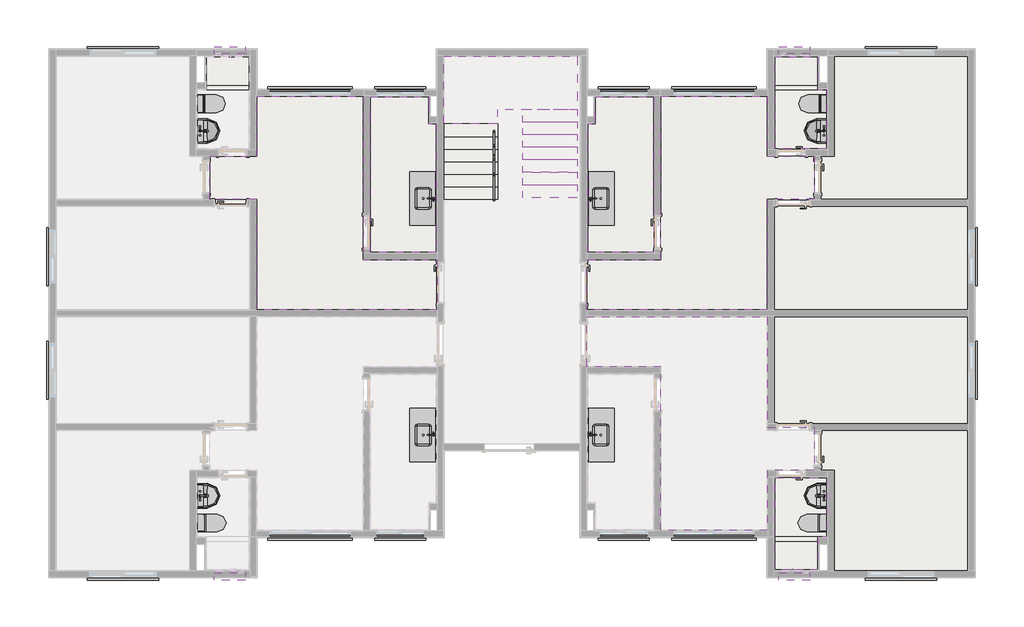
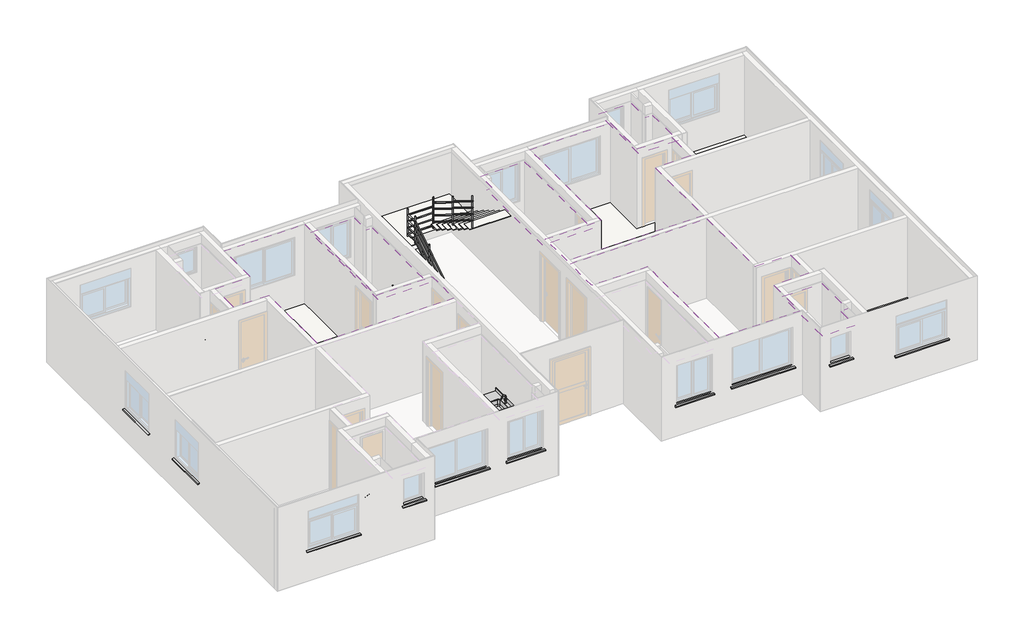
# One storey, part 9 of 9: 31 slabs, 24 flow terminals, 20 proxies, 7 coverings, 4 furniture elements, 1 railing.
"""IFC4 building model written with IfcOpenShell, lengths in millimetres."""

from ifc_helpers import new_model, si_unit, frame, origin, place, context, project, spatial, polyline, outline, extrude, faceted_brep, transform, mapped, element, save
from components import peitoril_peitoril_3_cm_d5d00cd0, peitoril_peitoril_3_cm_9406f1cb, peitoril_peitoril_3_cm_188c827f, peitoril_peitoril_3_cm_88708ed2, peitoril_peitoril_3_cm_319a31b0, peitoril_peitoril_3_cm_ceeb61d0, peitoril_peitoril_3_cm_04364ac9, peitoril_peitoril_3_cm_3798d146, peitoril_peitoril_3_cm_e052e7be, peitoril_peitoril_3_cm_b809ef5a, flow_terminal_fb00f1ee, flow_terminal_a2c34cfb, flow_terminal_2b854958, flow_terminal_a1eea942, flow_terminal_109c0629, flow_terminal_5e795d7a, flow_terminal_b1bb3d39, flow_terminal_9a69dd1e, flow_terminal_59b935d0, flow_terminal_63f1f31f, furniture_4236819a, furniture_3bfc2c75, metalico_900mm_6a006fd6

model = new_model("IFC4")

# Units and contexts
model_context = context("Model", 3, world=origin())
ifc_project = project(units=[si_unit("LENGTHUNIT", "METRE", prefix="MILLI")], contexts=[model_context])

# Site, building, storey
site = spatial("IfcSite", under=ifc_project)
building = spatial("IfcBuilding", under=site)
storey = spatial("IfcBuildingStorey", under=building, Name="2º Pavimento", Elevation=2630.0)

# Proxies
placement = place(None, origin())
peitoril_peitoril_3_cm_shape = peitoril_peitoril_3_cm_d5d00cd0(model_context)
element("IfcBuildingElementProxy", 1, Name="Peitoril : Peitoril 3 cm", ObjectType="Peitoril : Peitoril 3 cm", at=placement, inside=storey, context=model_context, shape_type="MappedRepresentation", body=[
    mapped(peitoril_peitoril_3_cm_shape, transform((1513.1839943, 12261.3233304, 2720.0), x_axis=(1.0, 0.0, 0.0), y_axis=(0.0, 1.0, 0.0), z_axis=(0.0, 0.0, 1.0))),
])
element("IfcBuildingElementProxy", 2, Name="Peitoril : Peitoril 3 cm", ObjectType="Peitoril : Peitoril 3 cm", at=placement, inside=storey, context=model_context, shape_type="MappedRepresentation", body=[
    mapped(peitoril_peitoril_3_cm_shape, transform((19306.810713, 538.6971587, 2720.0), x_axis=(-1.0, 0.0, 0.0), y_axis=(0.0, -1.0, 0.0), z_axis=(0.0, 0.0, 1.0))),
])
peitoril_peitoril_3_cm_2_shape = peitoril_peitoril_3_cm_9406f1cb(model_context)
element("IfcBuildingElementProxy", 3, Name="Peitoril : Peitoril 3 cm", ObjectType="Peitoril : Peitoril 3 cm", at=placement, inside=storey, context=model_context, shape_type="MappedRepresentation", body=[
    mapped(peitoril_peitoril_3_cm_2_shape, transform((88.7010956, 7513.1959901, 2720.0), x_axis=(0.0, 1.0, 0.0), y_axis=(-1.0, 0.0, 0.0), z_axis=(0.0, 0.0, 1.0))),
])
element("IfcBuildingElementProxy", 4, Name="Peitoril : Peitoril 3 cm", ObjectType="Peitoril : Peitoril 3 cm", at=placement, inside=storey, context=model_context, shape_type="MappedRepresentation", body=[
    mapped(peitoril_peitoril_3_cm_2_shape, transform((88.7010956, 4963.1957378, 2720.0), x_axis=(0.0, 1.0, 0.0), y_axis=(-1.0, 0.0, 0.0), z_axis=(0.0, 0.0, 1.0))),
])
peitoril_peitoril_3_cm_3_shape = peitoril_peitoril_3_cm_188c827f(model_context)
element("IfcBuildingElementProxy", 5, Name="Peitoril : Peitoril 3 cm", ObjectType="Peitoril : Peitoril 3 cm", at=placement, inside=storey, context=model_context, shape_type="MappedRepresentation", body=[
    mapped(peitoril_peitoril_3_cm_3_shape, transform((5713.1848, 11361.3203873, 2720.0), x_axis=(1.0, 0.0, 0.0), y_axis=(0.0, 1.0, 0.0), z_axis=(0.0, 0.0, 1.0))),
])
element("IfcBuildingElementProxy", 6, Name="Peitoril : Peitoril 3 cm", ObjectType="Peitoril : Peitoril 3 cm", at=placement, inside=storey, context=model_context, shape_type="MappedRepresentation", body=[
    mapped(peitoril_peitoril_3_cm_3_shape, transform((15106.8099074, 1438.7002405, 2720.0), x_axis=(-1.0, 0.0, 0.0), y_axis=(0.0, -1.0, 0.0), z_axis=(0.0, 0.0, 1.0))),
])
peitoril_peitoril_3_cm_4_shape = peitoril_peitoril_3_cm_88708ed2(model_context)
element("IfcBuildingElementProxy", 7, Name="Peitoril : Peitoril 3 cm", ObjectType="Peitoril : Peitoril 3 cm", at=placement, inside=storey, context=model_context, shape_type="MappedRepresentation", body=[
    mapped(peitoril_peitoril_3_cm_4_shape, transform((3908.1841972, 12261.3236799, 3120.0), x_axis=(1.0, 0.0, 0.0), y_axis=(0.0, 1.0, 0.0), z_axis=(0.0, 0.0, 1.0))),
])
element("IfcBuildingElementProxy", 8, Name="Peitoril : Peitoril 3 cm", ObjectType="Peitoril : Peitoril 3 cm", at=placement, inside=storey, context=model_context, shape_type="MappedRepresentation", body=[
    mapped(peitoril_peitoril_3_cm_4_shape, transform((16911.8105102, 538.6971587, 3120.0), x_axis=(-1.0, 0.0, 0.0), y_axis=(0.0, -1.0, 0.0), z_axis=(0.0, 0.0, 1.0))),
])
peitoril_peitoril_3_cm_5_shape = peitoril_peitoril_3_cm_319a31b0(model_context)
element("IfcBuildingElementProxy", 9, Name="Peitoril : Peitoril 3 cm", ObjectType="Peitoril : Peitoril 3 cm", at=placement, inside=storey, context=model_context, shape_type="MappedRepresentation", body=[
    mapped(peitoril_peitoril_3_cm_5_shape, transform((7738.18476, 11361.3203873, 2720.0), x_axis=(1.0, 0.0, 0.0), y_axis=(0.0, 1.0, 0.0), z_axis=(0.0, 0.0, 1.0))),
])
element("IfcBuildingElementProxy", 10, Name="Peitoril : Peitoril 3 cm", ObjectType="Peitoril : Peitoril 3 cm", at=placement, inside=storey, context=model_context, shape_type="MappedRepresentation", body=[
    mapped(peitoril_peitoril_3_cm_5_shape, transform((8061.8136599, 1438.7002405, 2720.0), x_axis=(-1.0, 0.0, 0.0), y_axis=(0.0, -1.0, 0.0), z_axis=(0.0, 0.0, 1.0))),
])
peitoril_peitoril_3_cm_6_shape = peitoril_peitoril_3_cm_ceeb61d0(model_context)
element("IfcBuildingElementProxy", 11, Name="Peitoril : Peitoril 3 cm", ObjectType="Peitoril : Peitoril 3 cm", at=placement, inside=storey, context=model_context, shape_type="MappedRepresentation", body=[
    mapped(peitoril_peitoril_3_cm_6_shape, transform((5713.1848, 1438.7002405, 2720.0), x_axis=(1.0, 0.0, 0.0), y_axis=(0.0, 1.0, 0.0), z_axis=(0.0, 0.0, 1.0))),
])
element("IfcBuildingElementProxy", 12, Name="Peitoril : Peitoril 3 cm", ObjectType="Peitoril : Peitoril 3 cm", at=placement, inside=storey, context=model_context, shape_type="MappedRepresentation", body=[
    mapped(peitoril_peitoril_3_cm_6_shape, transform((15106.8099074, 11361.3203873, 2720.0), x_axis=(-1.0, 0.0, 0.0), y_axis=(0.0, -1.0, 0.0), z_axis=(0.0, 0.0, 1.0))),
])
peitoril_peitoril_3_cm_7_shape = peitoril_peitoril_3_cm_04364ac9(model_context)
element("IfcBuildingElementProxy", 13, Name="Peitoril : Peitoril 3 cm", ObjectType="Peitoril : Peitoril 3 cm", at=placement, inside=storey, context=model_context, shape_type="MappedRepresentation", body=[
    mapped(peitoril_peitoril_3_cm_7_shape, transform((1513.1839943, 538.6971587, 2720.0), x_axis=(1.0, 0.0, 0.0), y_axis=(0.0, 1.0, 0.0), z_axis=(0.0, 0.0, 1.0))),
])
element("IfcBuildingElementProxy", 14, Name="Peitoril : Peitoril 3 cm", ObjectType="Peitoril : Peitoril 3 cm", at=placement, inside=storey, context=model_context, shape_type="MappedRepresentation", body=[
    mapped(peitoril_peitoril_3_cm_7_shape, transform((19306.810713, 12261.3233304, 2720.0), x_axis=(-1.0, 0.0, 0.0), y_axis=(0.0, -1.0, 0.0), z_axis=(0.0, 0.0, 1.0))),
])
peitoril_peitoril_3_cm_8_shape = peitoril_peitoril_3_cm_3798d146(model_context)
element("IfcBuildingElementProxy", 15, Name="Peitoril : Peitoril 3 cm", ObjectType="Peitoril : Peitoril 3 cm", at=placement, inside=storey, context=model_context, shape_type="MappedRepresentation", body=[
    mapped(peitoril_peitoril_3_cm_8_shape, transform((3908.1841972, 538.6971587, 3120.0), x_axis=(1.0, 0.0, 0.0), y_axis=(0.0, 1.0, 0.0), z_axis=(0.0, 0.0, 1.0))),
])
element("IfcBuildingElementProxy", 16, Name="Peitoril : Peitoril 3 cm", ObjectType="Peitoril : Peitoril 3 cm", at=placement, inside=storey, context=model_context, shape_type="MappedRepresentation", body=[
    mapped(peitoril_peitoril_3_cm_8_shape, transform((16911.8105102, 12261.3236799, 3120.0), x_axis=(-1.0, 0.0, 0.0), y_axis=(0.0, -1.0, 0.0), z_axis=(0.0, 0.0, 1.0))),
])
peitoril_peitoril_3_cm_9_shape = peitoril_peitoril_3_cm_e052e7be(model_context)
element("IfcBuildingElementProxy", 17, Name="Peitoril : Peitoril 3 cm", ObjectType="Peitoril : Peitoril 3 cm", at=placement, inside=storey, context=model_context, shape_type="MappedRepresentation", body=[
    mapped(peitoril_peitoril_3_cm_9_shape, transform((20731.2936118, 7513.1959901, 2720.0), x_axis=(0.0, 1.0, 0.0), y_axis=(-1.0, 0.0, 0.0), z_axis=(0.0, 0.0, 1.0))),
])
element("IfcBuildingElementProxy", 18, Name="Peitoril : Peitoril 3 cm", ObjectType="Peitoril : Peitoril 3 cm", at=placement, inside=storey, context=model_context, shape_type="MappedRepresentation", body=[
    mapped(peitoril_peitoril_3_cm_9_shape, transform((20731.2936118, 4963.1957378, 2720.0), x_axis=(0.0, 1.0, 0.0), y_axis=(-1.0, 0.0, 0.0), z_axis=(0.0, 0.0, 1.0))),
])
peitoril_peitoril_3_cm_10_shape = peitoril_peitoril_3_cm_b809ef5a(model_context)
element("IfcBuildingElementProxy", 19, Name="Peitoril : Peitoril 3 cm", ObjectType="Peitoril : Peitoril 3 cm", at=placement, inside=storey, context=model_context, shape_type="MappedRepresentation", body=[
    mapped(peitoril_peitoril_3_cm_10_shape, transform((13081.8099474, 11361.3203873, 2720.0), x_axis=(-1.0, 0.0, 0.0), y_axis=(0.0, -1.0, 0.0), z_axis=(0.0, 0.0, 1.0))),
])
element("IfcBuildingElementProxy", 20, Name="Peitoril : Peitoril 3 cm", ObjectType="Peitoril : Peitoril 3 cm", at=placement, inside=storey, context=model_context, shape_type="MappedRepresentation", body=[
    mapped(peitoril_peitoril_3_cm_10_shape, transform((12758.1810474, 1438.7002405, 2720.0), x_axis=(1.0, 0.0, 0.0), y_axis=(0.0, 1.0, 0.0), z_axis=(0.0, 0.0, 1.0))),
])

# Coverings
element("IfcCovering", 21, ObjectType="Forro - Gesso acartonado + Pintura", at=placement, inside=storey, context=model_context, shape_type="Brep", body=[
    faceted_brep([(7233.0017324, 11260.0223004, 4831.0), (8536.99631, 11260.0223004, 4831.0), (8536.99631, 10655.0073729, 4831.0), (8709.9963008, 10655.0073729, 4831.0), (8709.9963008, 7766.3603139, 4831.0), (7233.0017324, 7766.3603139, 4831.0), (7233.0017324, 10655.0073729, 4831.0), (7233.0017324, 11260.0223004, 4851.0), (7233.0017324, 10655.0073729, 4851.0), (7233.0017324, 7766.3603139, 4851.0), (8709.9963008, 7766.3603139, 4851.0), (8709.9963008, 10655.0073729, 4851.0), (8536.99631, 10655.0073729, 4851.0), (8536.99631, 11260.0223004, 4851.0)], [[[0, 1, 2, 3, 4, 5, 6]], [[7, 8, 9, 10, 11, 12, 13]], [[7, 13, 1, 0]], [[13, 12, 2, 1]], [[12, 11, 3, 2]], [[11, 10, 4, 3]], [[10, 9, 5, 4]], [[9, 8, 7, 0, 6, 5]]]),
    faceted_brep([(8536.99631, 11260.0223004, 4830.0), (7233.0017324, 11260.0223004, 4830.0), (7233.0017324, 11260.0223004, 4831.0), (8536.99631, 11260.0223004, 4831.0), (8536.99631, 10655.0073729, 4830.0), (8536.99631, 10655.0073729, 4831.0), (8709.9963008, 10655.0073729, 4830.0), (8709.9963008, 10655.0073729, 4831.0), (8709.9963008, 7766.3603139, 4830.0), (8709.9963008, 7766.3603139, 4831.0), (7233.0017324, 7766.3603139, 4830.0), (7233.0017324, 7766.3603139, 4831.0), (7233.0017324, 10655.0073729, 4830.0), (7233.0017324, 10655.0073729, 4831.0)], [[[0, 1, 2, 3]], [[4, 0, 3, 5]], [[6, 4, 5, 7]], [[8, 6, 7, 9]], [[10, 8, 9, 11]], [[12, 10, 11, 13, 2, 1]], [[3, 2, 13, 11, 9, 7, 5]], [[1, 0, 4, 6, 8, 10, 12]]]),
])
element("IfcCovering", 22, ObjectType="Forro - Gesso acartonado + Pintura", at=placement, inside=storey, context=model_context, shape_type="Brep", body=[
    faceted_brep([(12282.9983974, 11260.0223004, 4831.0), (13586.992975, 11260.0223004, 4831.0), (13586.992975, 10655.0073729, 4831.0), (13586.992975, 7766.3603139, 4831.0), (12109.9984066, 7766.3603139, 4831.0), (12109.9984066, 10655.0073729, 4831.0), (12282.9983974, 10655.0073729, 4831.0), (13586.992975, 11260.0223004, 4851.0), (12282.9983974, 11260.0223004, 4851.0), (12282.9983974, 10655.0073729, 4851.0), (12109.9984066, 10655.0073729, 4851.0), (12109.9984066, 7766.3603139, 4851.0), (13586.992975, 7766.3603139, 4851.0), (13586.992975, 10655.0073729, 4851.0)], [[[0, 1, 2, 3, 4, 5, 6]], [[7, 8, 9, 10, 11, 12, 13]], [[8, 7, 1, 0]], [[9, 8, 0, 6]], [[10, 9, 6, 5]], [[11, 10, 5, 4]], [[12, 11, 4, 3]], [[7, 13, 12, 3, 2, 1]]]),
    faceted_brep([(13586.992975, 11260.0223004, 4830.0), (12282.9983974, 11260.0223004, 4830.0), (12282.9983974, 11260.0223004, 4831.0), (13586.992975, 11260.0223004, 4831.0), (12282.9983974, 10655.0073729, 4830.0), (12282.9983974, 10655.0073729, 4831.0), (12109.9984066, 10655.0073729, 4830.0), (12109.9984066, 10655.0073729, 4831.0), (12109.9984066, 7766.3603139, 4830.0), (12109.9984066, 7766.3603139, 4831.0), (13586.992975, 7766.3603139, 4830.0), (13586.992975, 7766.3603139, 4831.0), (13586.992975, 10655.0073729, 4830.0), (13586.992975, 10655.0073729, 4831.0)], [[[0, 1, 2, 3]], [[1, 4, 5, 2]], [[4, 6, 7, 5]], [[6, 8, 9, 7]], [[8, 10, 11, 9]], [[12, 0, 3, 13, 11, 10]], [[3, 2, 5, 7, 9, 11, 13]], [[0, 12, 10, 8, 6, 4, 1]]]),
])
element("IfcCovering", 23, ObjectType="Forro - Gesso acartonado + Pintura", at=placement, inside=storey, context=model_context, shape_type="Brep", body=[
    faceted_brep([(16309.9956991, 2709.9967615, 4831.0), (17479.9970535, 2709.9967615, 4831.0), (17479.9970535, 1379.9983274, 4831.0), (17270.0007274, 1379.9983274, 4831.0), (17270.0007274, 639.9950349, 4831.0), (16309.9956991, 639.9950349, 4831.0), (16309.9956991, 1379.9983274, 4831.0), (16309.9956991, 2709.9967615, 4851.0), (16309.9956991, 1379.9983274, 4851.0), (16309.9956991, 639.9950349, 4851.0), (17270.0007274, 639.9950349, 4851.0), (17270.0007274, 1379.9983274, 4851.0), (17479.9970535, 1379.9983274, 4851.0), (17479.9970535, 2709.9967615, 4851.0)], [[[0, 1, 2, 3, 4, 5, 6]], [[7, 8, 9, 10, 11, 12, 13]], [[7, 13, 1, 0]], [[13, 12, 2, 1]], [[12, 11, 3, 2]], [[11, 10, 4, 3]], [[10, 9, 5, 4]], [[9, 8, 7, 0, 6, 5]]]),
    faceted_brep([(17479.9970535, 2709.9967615, 4830.0), (16309.9956991, 2709.9967615, 4830.0), (16309.9956991, 2709.9967615, 4831.0), (17479.9970535, 2709.9967615, 4831.0), (17479.9970535, 1379.9983274, 4830.0), (17479.9970535, 1379.9983274, 4831.0), (17270.0007274, 1379.9983274, 4830.0), (17270.0007274, 1379.9983274, 4831.0), (17270.0007274, 639.9950349, 4830.0), (17270.0007274, 639.9950349, 4831.0), (16309.9956991, 639.9950349, 4830.0), (16309.9956991, 639.9950349, 4831.0), (16309.9956991, 1379.9983274, 4830.0), (16309.9956991, 1379.9983274, 4831.0)], [[[0, 1, 2, 3]], [[4, 0, 3, 5]], [[6, 4, 5, 7]], [[8, 6, 7, 9]], [[10, 8, 9, 11]], [[12, 10, 11, 13, 2, 1]], [[3, 2, 13, 11, 9, 7, 5]], [[1, 0, 4, 6, 8, 10, 12]]]),
])
element("IfcCovering", 24, ObjectType="Forro - Gesso acartonado + Pintura", at=placement, inside=storey, context=model_context, shape_type="Brep", body=[
    faceted_brep([(17479.9970535, 10090.0238664, 4831.0), (16309.9956991, 10090.0238664, 4831.0), (16309.9956991, 11420.0223004, 4831.0), (16309.9956991, 12160.025593, 4831.0), (17270.0007274, 12160.025593, 4831.0), (17270.0007274, 11420.0223004, 4831.0), (17479.9970535, 11420.0223004, 4831.0), (16309.9956991, 10090.0238664, 4851.0), (17479.9970535, 10090.0238664, 4851.0), (17479.9970535, 11420.0223004, 4851.0), (17270.0007274, 11420.0223004, 4851.0), (17270.0007274, 12160.025593, 4851.0), (16309.9956991, 12160.025593, 4851.0), (16309.9956991, 11420.0223004, 4851.0)], [[[0, 1, 2, 3, 4, 5, 6]], [[7, 8, 9, 10, 11, 12, 13]], [[8, 7, 1, 0]], [[9, 8, 0, 6]], [[10, 9, 6, 5]], [[11, 10, 5, 4]], [[12, 11, 4, 3]], [[7, 13, 12, 3, 2, 1]]]),
    faceted_brep([(16309.9956991, 10090.0238664, 4830.0), (17479.9970535, 10090.0238664, 4830.0), (17479.9970535, 10090.0238664, 4831.0), (16309.9956991, 10090.0238664, 4831.0), (17479.9970535, 11420.0223004, 4830.0), (17479.9970535, 11420.0223004, 4831.0), (17270.0007274, 11420.0223004, 4830.0), (17270.0007274, 11420.0223004, 4831.0), (17270.0007274, 12160.025593, 4830.0), (17270.0007274, 12160.025593, 4831.0), (16309.9956991, 12160.025593, 4830.0), (16309.9956991, 12160.025593, 4831.0), (16309.9956991, 11420.0223004, 4830.0), (16309.9956991, 11420.0223004, 4831.0)], [[[0, 1, 2, 3]], [[1, 4, 5, 2]], [[4, 6, 7, 5]], [[6, 8, 9, 7]], [[8, 10, 11, 9]], [[12, 0, 3, 13, 11, 10]], [[3, 2, 5, 7, 9, 11, 13]], [[0, 12, 10, 8, 6, 4, 1]]]),
])
element("IfcCovering", 25, ObjectType="Textura Laje", at=placement, inside=storey, context=model_context, shape_type="SweptSolid", body=[
    extrude(outline(polyline([(174.9991825, 12175.0252435), (3174.9977061, 12175.0252435), (3174.9977061, 9925.0238664), (3474.9980641, 9925.0238664), (3474.9980641, 8955.0254246), (174.9991825, 8955.0254246), (174.9991825, 12175.0252435)])), frame((0.0, 0.0, 5138.0), z_axis=(0.0, 0.0, 1.0), x_axis=(1.0, 0.0, 0.0)), (0.0, 0.0, 1.0), 2.0),
    extrude(outline(polyline([(174.9992567, 8805.0103139), (4524.9996867, 8805.0103139), (4524.9996867, 6475.0103139), (174.9992567, 6475.0103139), (174.9992567, 8805.0103139)])), frame((0.0, 0.0, 5138.0), z_axis=(0.0, 0.0, 1.0), x_axis=(1.0, 0.0, 0.0)), (0.0, 0.0, 1.0), 2.0),
    extrude(outline(polyline([(4675.9996867, 8956.0244803), (3625.9980641, 8956.0244803), (3625.9980641, 9924.0238664), (4675.9990083, 9924.0238664), (4675.9990083, 11274.0223004), (7066.9986861, 11274.0223004), (7066.9986861, 7600.3603139), (8709.865378, 7600.3603139), (8729.9963008, 7600.3603139), (8729.9963008, 6476.0103139), (4675.9996867, 6476.0103139), (4675.9996867, 8956.0244803)])), frame((0.0, 0.0, 5138.0), z_axis=(0.0, 0.0, 1.0), x_axis=(1.0, 0.0, 0.0)), (0.0, 0.0, 1.0), 2.0),
])
element("IfcCovering", 26, ObjectType="Textura Laje", at=placement, inside=storey, context=model_context, shape_type="SweptSolid", body=[
    extrude(outline(polyline([(20644.9955249, 12175.0252435), (20644.9955249, 8955.0254246), (17344.9966432, 8955.0254246), (17344.9966432, 9925.0238664), (17644.9970013, 9925.0238664), (17644.9970013, 12175.0252435), (20644.9955249, 12175.0252435)])), frame((0.0, 0.0, 5138.0), z_axis=(0.0, 0.0, 1.0), x_axis=(1.0, 0.0, 0.0)), (0.0, 0.0, 1.0), 2.0),
    extrude(outline(polyline([(20644.9954507, 8805.0103139), (20644.9954507, 6475.0103139), (16294.9950207, 6475.0103139), (16294.9950207, 8805.0103139), (20644.9954507, 8805.0103139)])), frame((0.0, 0.0, 5138.0), z_axis=(0.0, 0.0, 1.0), x_axis=(1.0, 0.0, 0.0)), (0.0, 0.0, 1.0), 2.0),
    extrude(outline(polyline([(16143.9950207, 8956.0244803), (16143.9950207, 6476.0103139), (12089.9984066, 6476.0103139), (12089.9984066, 7600.3603139), (12110.1293293, 7600.3603139), (13752.9960213, 7600.3603139), (13752.9960213, 11274.0223004), (16143.9956991, 11274.0223004), (16143.9956991, 9924.0238664), (17193.9966432, 9924.0238664), (17193.9966432, 8956.0244803), (16143.9950207, 8956.0244803)])), frame((0.0, 0.0, 5138.0), z_axis=(0.0, 0.0, 1.0), x_axis=(1.0, 0.0, 0.0)), (0.0, 0.0, 1.0), 2.0),
])
element("IfcCovering", 27, ObjectType="Textura Laje", at=placement, inside=storey, context=model_context, shape_type="SweptSolid", body=[
    extrude(outline(polyline([(20644.9955249, 624.9953844), (17644.9970013, 624.9953844), (17644.9970013, 2874.9967615), (17344.9966432, 2874.9967615), (17344.9966432, 3844.9952033), (20644.9955249, 3844.9952033), (20644.9955249, 624.9953844)])), frame((0.0, 0.0, 5138.0), z_axis=(0.0, 0.0, 1.0), x_axis=(1.0, 0.0, 0.0)), (0.0, 0.0, 1.0), 2.0),
    extrude(outline(polyline([(20644.9954507, 3995.0103139), (16294.9950207, 3995.0103139), (16294.9950207, 6325.0103139), (20644.9954507, 6325.0103139), (20644.9954507, 3995.0103139)])), frame((0.0, 0.0, 5138.0), z_axis=(0.0, 0.0, 1.0), x_axis=(1.0, 0.0, 0.0)), (0.0, 0.0, 1.0), 2.0),
    extrude(outline(polyline([(16143.9950207, 3843.9961476), (17193.9966432, 3843.9961476), (17193.9966432, 2875.9967615), (16143.9956991, 2875.9967615), (16143.9956991, 1525.9983274), (13752.9960213, 1525.9983274), (13752.9960213, 5199.6603139), (12110.1293293, 5199.6603139), (12089.9984066, 5199.6603139), (12089.9984066, 6324.0103139), (16143.9950207, 6324.0103139), (16143.9950207, 3843.9961476)])), frame((0.0, 0.0, 5138.0), z_axis=(0.0, 0.0, 1.0), x_axis=(1.0, 0.0, 0.0)), (0.0, 0.0, 1.0), 2.0),
])

# Flow terminals
flow_terminal_shape = flow_terminal_fb00f1ee(model_context)
element("IfcFlowTerminal", 28, ObjectType="Deca_Shared_Assento_P.280 : Bacia Sanitária - Assento", at=placement, inside=storey, context=model_context, shape_type="MappedRepresentation", body=[
    mapped(flow_terminal_shape, transform((3526.0519567, 11100.2075997, 3040.0300928), x_axis=(0.0, 1.0, 0.0), y_axis=(0.0, 0.0, 1.0), z_axis=(1.0, 0.0, 0.0))),
])
element("IfcFlowTerminal", 29, ObjectType="Deca_Shared_Assento_P.280 : Bacia Sanitária - Assento", at=placement, inside=storey, context=model_context, shape_type="MappedRepresentation", body=[
    mapped(flow_terminal_shape, transform((17278.9427506, 1699.8130281, 3040.0300928), x_axis=(0.0, -1.0, 0.0), y_axis=(0.0, 0.0, 1.0), z_axis=(-1.0, 0.0, 0.0))),
])
flow_terminal_2_shape = flow_terminal_a2c34cfb(model_context)
element("IfcFlowTerminal", 30, ObjectType="DECA_BACIA SANITARIA WISH_P.280_CAIXA ACOPLADA : Bacia Sanitária - Caixa Acoplada Inferior", at=placement, inside=storey, context=model_context, shape_type="MappedRepresentation", body=[
    mapped(flow_terminal_2_shape, transform((3319.9976538, 11105.9659033, 2640.0), x_axis=(0.0, 1.0, 0.0), y_axis=(0.0, 0.0, 1.0), z_axis=(1.0, 0.0, 0.0))),
])
element("IfcFlowTerminal", 31, ObjectType="DECA_BACIA SANITARIA WISH_P.280_CAIXA ACOPLADA : Bacia Sanitária - Caixa Acoplada Inferior", at=placement, inside=storey, context=model_context, shape_type="MappedRepresentation", body=[
    mapped(flow_terminal_2_shape, transform((17484.9970535, 1694.0547246, 2640.0), x_axis=(0.0, -1.0, 0.0), y_axis=(0.0, 0.0, 1.0), z_axis=(-1.0, 0.0, 0.0))),
])
flow_terminal_3_shape = flow_terminal_2b854958(model_context)
element("IfcFlowTerminal", 32, ObjectType="Deca_Shared_Caixa Acoplada para Bacia_P.280 : Bacia Sanitária - Caixa Acoplada", at=placement, inside=storey, context=model_context, shape_type="MappedRepresentation", body=[
    mapped(flow_terminal_3_shape, transform((3329.9976538, 11105.9657159, 3040.0300928), x_axis=(0.0, 1.0, 0.0), y_axis=(0.0, 0.0, 1.0), z_axis=(1.0, 0.0, 0.0))),
])
element("IfcFlowTerminal", 33, ObjectType="Deca_Shared_Caixa Acoplada para Bacia_P.280 : Bacia Sanitária - Caixa Acoplada", at=placement, inside=storey, context=model_context, shape_type="MappedRepresentation", body=[
    mapped(flow_terminal_3_shape, transform((17474.9970535, 1694.0549119, 3040.0300928), x_axis=(0.0, -1.0, 0.0), y_axis=(0.0, 0.0, 1.0), z_axis=(-1.0, 0.0, 0.0))),
])
flow_terminal_4_shape = flow_terminal_a1eea942(model_context)
element("IfcFlowTerminal", 34, ObjectType="DECA_BACIA SANITARIA WISH_P.280_CAIXA ACOPLADA : Bacia Sanitária - Caixa Acoplada Inferior", at=placement, inside=storey, context=model_context, shape_type="MappedRepresentation", body=[
    mapped(flow_terminal_4_shape, transform((3334.9976538, 1694.0547246, 2640.0), x_axis=(0.0, -1.0, 0.0), y_axis=(0.0, 0.0, -1.0), z_axis=(1.0, 0.0, 0.0))),
])
element("IfcFlowTerminal", 35, ObjectType="DECA_BACIA SANITARIA WISH_P.280_CAIXA ACOPLADA : Bacia Sanitária - Caixa Acoplada Inferior", at=placement, inside=storey, context=model_context, shape_type="MappedRepresentation", body=[
    mapped(flow_terminal_4_shape, transform((17499.9970535, 11105.9659033, 2640.0), x_axis=(0.0, 1.0, 0.0), y_axis=(0.0, 0.0, -1.0), z_axis=(-1.0, 0.0, 0.0))),
])
flow_terminal_5_shape = flow_terminal_109c0629(model_context)
element("IfcFlowTerminal", 36, ObjectType="Deca_Shared_Caixa Acoplada para Bacia_P.280 : Bacia Sanitária - Caixa Acoplada", at=placement, inside=storey, context=model_context, shape_type="MappedRepresentation", body=[
    mapped(flow_terminal_5_shape, transform((3344.9976538, 1694.0549119, 3040.0300928), x_axis=(0.0, -1.0, 0.0), y_axis=(0.0, 0.0, -1.0), z_axis=(1.0, 0.0, 0.0))),
])
element("IfcFlowTerminal", 37, ObjectType="Deca_Shared_Caixa Acoplada para Bacia_P.280 : Bacia Sanitária - Caixa Acoplada", at=placement, inside=storey, context=model_context, shape_type="MappedRepresentation", body=[
    mapped(flow_terminal_5_shape, transform((17489.9970535, 11105.9657159, 3040.0300928), x_axis=(0.0, 1.0, 0.0), y_axis=(0.0, 0.0, -1.0), z_axis=(-1.0, 0.0, 0.0))),
])
flow_terminal_6_shape = flow_terminal_5e795d7a(model_context)
element("IfcFlowTerminal", 38, ObjectType="Deca_Shared_Assento_P.280 : Bacia Sanitária - Assento", at=placement, inside=storey, context=model_context, shape_type="MappedRepresentation", body=[
    mapped(flow_terminal_6_shape, transform((3541.0519567, 1699.8130281, 3040.0300928), x_axis=(0.0, -1.0, 0.0), y_axis=(0.0, 0.0, -1.0), z_axis=(1.0, 0.0, 0.0))),
])
element("IfcFlowTerminal", 39, ObjectType="Deca_Shared_Assento_P.280 : Bacia Sanitária - Assento", at=placement, inside=storey, context=model_context, shape_type="MappedRepresentation", body=[
    mapped(flow_terminal_6_shape, transform((17293.9427506, 11100.2075997, 3040.0300928), x_axis=(0.0, 1.0, 0.0), y_axis=(0.0, 0.0, -1.0), z_axis=(-1.0, 0.0, 0.0))),
])
flow_terminal_7_shape = flow_terminal_b1bb3d39(model_context)
element("IfcFlowTerminal", 40, ObjectType="Deca_Lavatorio Belle Epoque_L.2_Coluna : Pia Banho", at=placement, inside=storey, context=model_context, shape_type="MappedRepresentation", body=[
    mapped(flow_terminal_7_shape, transform((3334.9976538, 2304.9967615, 3423.6791778), x_axis=(0.0, 1.0, 0.0), y_axis=(0.0, 0.0, 1.0), z_axis=(1.0, 0.0, 0.0))),
])
element("IfcFlowTerminal", 41, ObjectType="Deca_Lavatorio Belle Epoque_L.2_Coluna : Pia Banho", at=placement, inside=storey, context=model_context, shape_type="MappedRepresentation", body=[
    mapped(flow_terminal_7_shape, transform((17484.9970535, 10495.0238664, 3423.6791778), x_axis=(0.0, -1.0, 0.0), y_axis=(0.0, 0.0, 1.0), z_axis=(-1.0, 0.0, 0.0))),
])
flow_terminal_8_shape = flow_terminal_9a69dd1e(model_context)
element("IfcFlowTerminal", 42, ObjectType="Deca_Lavatorio Belle Epoque_L.2_Coluna : Pia Banho", at=placement, inside=storey, context=model_context, shape_type="MappedRepresentation", body=[
    mapped(flow_terminal_8_shape, transform((3334.9976538, 10495.0238664, 3423.6791778), x_axis=(0.0, -1.0, 0.0), y_axis=(0.0, 0.0, -1.0), z_axis=(1.0, 0.0, 0.0))),
])
element("IfcFlowTerminal", 43, ObjectType="Deca_Lavatorio Belle Epoque_L.2_Coluna : Pia Banho", at=placement, inside=storey, context=model_context, shape_type="MappedRepresentation", body=[
    mapped(flow_terminal_8_shape, transform((17484.9970535, 2304.9967615, 3423.6791778), x_axis=(0.0, 1.0, 0.0), y_axis=(0.0, 0.0, -1.0), z_axis=(-1.0, 0.0, 0.0))),
])
flow_terminal_9_shape = flow_terminal_59b935d0(model_context)
element("IfcFlowTerminal", 44, ObjectType="Deca_Torneira Lavatorio Izy Plus_1198.C24_Mesa Bica Alta : Torneira Cozinha", at=placement, inside=storey, context=model_context, shape_type="MappedRepresentation", body=[
    mapped(flow_terminal_9_shape, transform((8646.99867, 8980.0223004, 3580.0), x_axis=(0.0, -1.0, 0.0), y_axis=(1.0, 0.0, 0.0), z_axis=(0.0, 0.0, 1.0))),
])
element("IfcFlowTerminal", 45, ObjectType="Deca_Torneira Lavatorio Izy Plus_1198.C24_Mesa Bica Alta : Torneira Cozinha", at=placement, inside=storey, context=model_context, shape_type="MappedRepresentation", body=[
    mapped(flow_terminal_9_shape, transform((3406.8910521, 10494.3801324, 3441.5038992), x_axis=(0.0, 1.0, 0.0), y_axis=(-1.0, 0.0, 0.0), z_axis=(0.0, 0.0, 1.0))),
])
element("IfcFlowTerminal", 46, ObjectType="Deca_Torneira Lavatorio Izy Plus_1198.C24_Mesa Bica Alta : Torneira Cozinha", at=placement, inside=storey, context=model_context, shape_type="MappedRepresentation", body=[
    mapped(flow_terminal_9_shape, transform((12172.9960374, 3669.9874185, 3580.0), x_axis=(0.0, 1.0, 0.0), y_axis=(-1.0, 0.0, 0.0), z_axis=(0.0, 0.0, 1.0))),
])
element("IfcFlowTerminal", 47, ObjectType="Deca_Torneira Lavatorio Izy Plus_1198.C24_Mesa Bica Alta : Torneira Cozinha", at=placement, inside=storey, context=model_context, shape_type="MappedRepresentation", body=[
    mapped(flow_terminal_9_shape, transform((17413.1036553, 2305.6404955, 3441.5038992), x_axis=(0.0, -1.0, 0.0), y_axis=(1.0, 0.0, 0.0), z_axis=(0.0, 0.0, 1.0))),
])
flow_terminal_10_shape = flow_terminal_63f1f31f(model_context)
element("IfcFlowTerminal", 48, ObjectType="Deca_Torneira Lavatorio Izy Plus_1198.C24_Mesa Bica Alta : Torneira Cozinha", at=placement, inside=storey, context=model_context, shape_type="MappedRepresentation", body=[
    mapped(flow_terminal_10_shape, transform((8646.99867, 3669.9874185, 3580.0), x_axis=(0.0, 1.0, 0.0), y_axis=(-1.0, 0.0, 0.0), z_axis=(0.0, 0.0, 1.0))),
])
element("IfcFlowTerminal", 49, ObjectType="Deca_Torneira Lavatorio Izy Plus_1198.C24_Mesa Bica Alta : Torneira Cozinha", at=placement, inside=storey, context=model_context, shape_type="MappedRepresentation", body=[
    mapped(flow_terminal_10_shape, transform((3406.8910521, 2305.6404955, 3441.5038992), x_axis=(0.0, -1.0, 0.0), y_axis=(1.0, 0.0, 0.0), z_axis=(0.0, 0.0, 1.0))),
])
element("IfcFlowTerminal", 50, ObjectType="Deca_Torneira Lavatorio Izy Plus_1198.C24_Mesa Bica Alta : Torneira Cozinha", at=placement, inside=storey, context=model_context, shape_type="MappedRepresentation", body=[
    mapped(flow_terminal_10_shape, transform((12172.9960374, 8980.0223004, 3580.0), x_axis=(0.0, -1.0, 0.0), y_axis=(1.0, 0.0, 0.0), z_axis=(0.0, 0.0, 1.0))),
])
element("IfcFlowTerminal", 51, ObjectType="Deca_Torneira Lavatorio Izy Plus_1198.C24_Mesa Bica Alta : Torneira Cozinha", at=placement, inside=storey, context=model_context, shape_type="MappedRepresentation", body=[
    mapped(flow_terminal_10_shape, transform((17413.1036553, 10494.3801324, 3441.5038992), x_axis=(0.0, 1.0, 0.0), y_axis=(-1.0, 0.0, 0.0), z_axis=(0.0, 0.0, 1.0))),
])

# Furniture
furniture_shape = furniture_4236819a(model_context)
element("IfcFurniture", 52, ObjectType="Tampo de Bancada com Cuba : Granilite 60cm", at=placement, inside=storey, context=model_context, shape_type="MappedRepresentation", body=[
    mapped(furniture_shape, transform((8714.9986604, 8379.5600053, 2680.0), x_axis=(0.0, -1.0, 0.0), y_axis=(1.0, 0.0, 0.0), z_axis=(0.0, 0.0, 1.0))),
])
element("IfcFurniture", 53, ObjectType="Tampo de Bancada com Cuba : Granilite 60cm", at=placement, inside=storey, context=model_context, shape_type="MappedRepresentation", body=[
    mapped(furniture_shape, transform((12104.996047, 4270.4497136, 2680.0), x_axis=(0.0, 1.0, 0.0), y_axis=(-1.0, 0.0, 0.0), z_axis=(0.0, 0.0, 1.0))),
])
furniture_2_shape = furniture_3bfc2c75(model_context)
element("IfcFurniture", 54, ObjectType="Tampo de Bancada com Cuba : Granilite 60cm", at=placement, inside=storey, context=model_context, shape_type="MappedRepresentation", body=[
    mapped(furniture_2_shape, transform((8714.9986604, 4270.4497136, 2680.0), x_axis=(0.0, 1.0, 0.0), y_axis=(-1.0, 0.0, 0.0), z_axis=(0.0, 0.0, 1.0))),
])
element("IfcFurniture", 55, ObjectType="Tampo de Bancada com Cuba : Granilite 60cm", at=placement, inside=storey, context=model_context, shape_type="MappedRepresentation", body=[
    mapped(furniture_2_shape, transform((12104.996047, 8379.5600053, 2680.0), x_axis=(0.0, -1.0, 0.0), y_axis=(1.0, 0.0, 0.0), z_axis=(0.0, 0.0, 1.0))),
])

# Railing
metalico_900mm_shape = metalico_900mm_6a006fd6(model_context)
element("IfcRailing", 56, ObjectType="Metalico 900mm", at=placement, inside=storey, context=model_context, shape_type="MappedRepresentation", body=[
    mapped(metalico_900mm_shape, transform((0.0, 0.0, 0.0), x_axis=(1.0, 0.0, 0.0), y_axis=(0.0, 1.0, 0.0), z_axis=(0.0, 0.0, 1.0))),
])

# Slabs
element("IfcSlab", 57, ObjectType="Pedra Basalto", at=placement, inside=storey, context=model_context, shape_type="SweptSolid", body=[
    extrude(outline(polyline([(4509.99398, 11515.0235306), (4509.99398, 11415.0235306), (3529.99398, 11415.0235306), (3529.99398, 11515.0235306), (4509.99398, 11515.0235306)])), frame((0.0, 0.0, 2720.0), z_axis=(0.0, 0.0, 1.0), x_axis=(1.0, 0.0, 0.0)), (0.0, 0.0, 1.0), 20.0),
])
element("IfcSlab", 58, ObjectType="Cerâmica piso + Impermeabilização", at=placement, inside=storey, context=model_context, shape_type="SweptSolid", body=[
    extrude(outline(polyline([(4509.99398, 11505.0235306), (3549.99398, 11505.0235306), (3549.99398, 12160.025593), (4509.99398, 12160.025593), (4509.99398, 11505.0235306)])), frame((0.0, 0.0, 2629.0), z_axis=(0.0, 0.0, 1.0), x_axis=(1.0, 0.0, 0.0)), (0.0, 0.0, 1.0), 11.0),
])
element("IfcSlab", 59, ObjectType="Cerâmica", at=placement, inside=storey, context=model_context, shape_type="SweptSolid", body=[
    extrude(outline(polyline([(8709.9963008, 7766.3603139), (7233.0017324, 7766.3603139), (7233.0017324, 10655.0073729), (7233.0017324, 11260.0223004), (8536.99631, 11260.0223004), (8536.99631, 10655.0073729), (8709.9963008, 10655.0073729), (8709.9963008, 7766.3603139)])), frame((0.0, 0.0, 2630.0), z_axis=(0.0, 0.0, 1.0), x_axis=(1.0, 0.0, 0.0)), (0.0, 0.0, 1.0), 10.0),
])
element("IfcSlab", 60, ObjectType="Cerâmica", at=placement, inside=storey, context=model_context, shape_type="SweptSolid", body=[
    extrude(outline(polyline([(8723.9963008, 6476.0103139), (4675.9996867, 6476.0103139), (4675.9996867, 8956.0244803), (3625.9980641, 8956.0244803), (3625.9980641, 9924.0238664), (4675.9990083, 9924.0238664), (4675.9990083, 11280.0223004), (7066.9986861, 11280.0223004), (7066.9986861, 7600.3603139), (8723.9963008, 7600.3603139), (8723.9963008, 6476.0103139)])), frame((0.0, 0.0, 2630.0), z_axis=(0.0, 0.0, 1.0), x_axis=(1.0, 0.0, 0.0)), (0.0, 0.0, 1.0), 10.0),
])
element("IfcSlab", 61, ObjectType="Pedra Basalto", at=placement, inside=storey, context=model_context, shape_type="SweptSolid", body=[
    extrude(outline(polyline([(16310.0007274, 11515.0235306), (17290.0007274, 11515.0235306), (17290.0007274, 11415.0235306), (16310.0007274, 11415.0235306), (16310.0007274, 11515.0235306)])), frame((0.0, 0.0, 2720.0), z_axis=(0.0, 0.0, 1.0), x_axis=(1.0, 0.0, 0.0)), (0.0, 0.0, 1.0), 20.0),
])
element("IfcSlab", 62, ObjectType="Cerâmica piso + Impermeabilização", at=placement, inside=storey, context=model_context, shape_type="SweptSolid", body=[
    extrude(outline(polyline([(16310.0007274, 1294.9970972), (17270.0007274, 1294.9970972), (17270.0007274, 639.9950349), (16310.0007274, 639.9950349), (16310.0007274, 1294.9970972)])), frame((0.0, 0.0, 2629.0), z_axis=(0.0, 0.0, 1.0), x_axis=(1.0, 0.0, 0.0)), (0.0, 0.0, 1.0), 11.0),
])
element("IfcSlab", 63, ObjectType="Pedra Basalto", at=placement, inside=storey, context=model_context, shape_type="SweptSolid", body=[
    extrude(outline(polyline([(16310.0007274, 1284.9970972), (16310.0007274, 1384.9970972), (17290.0007274, 1384.9970972), (17290.0007274, 1284.9970972), (16310.0007274, 1284.9970972)])), frame((0.0, 0.0, 2720.0), z_axis=(0.0, 0.0, 1.0), x_axis=(1.0, 0.0, 0.0)), (0.0, 0.0, 1.0), 20.0),
])
element("IfcSlab", 64, ObjectType="Cerâmica", at=placement, inside=storey, context=model_context, shape_type="SweptSolid", body=[
    extrude(outline(polyline([(16309.9956991, 1379.9970972), (16309.9956991, 2709.9967615), (17479.9970535, 2709.9967615), (17479.9970535, 1379.9970972), (16309.9956991, 1379.9970972)])), frame((0.0, 0.0, 2630.0), z_axis=(0.0, 0.0, 1.0), x_axis=(1.0, 0.0, 0.0)), (0.0, 0.0, 1.0), 10.0),
])
element("IfcSlab", 65, ObjectType="Cerâmica piso + Impermeabilização", at=placement, inside=storey, context=model_context, shape_type="SweptSolid", body=[
    extrude(outline(polyline([(16310.0007274, 11505.0235306), (16310.0007274, 12160.025593), (17270.0007274, 12160.025593), (17270.0007274, 11505.0235306), (16310.0007274, 11505.0235306)])), frame((0.0, 0.0, 2629.0), z_axis=(0.0, 0.0, 1.0), x_axis=(1.0, 0.0, 0.0)), (0.0, 0.0, 1.0), 11.0),
])
element("IfcSlab", 66, ObjectType="Cerâmica", at=placement, inside=storey, context=model_context, shape_type="SweptSolid", body=[
    extrude(outline(polyline([(16309.9956991, 11420.0235306), (17479.9970535, 11420.0235306), (17479.9970535, 10090.0238664), (16309.9956991, 10090.0238664), (16309.9956991, 11420.0235306)])), frame((0.0, 0.0, 2630.0), z_axis=(0.0, 0.0, 1.0), x_axis=(1.0, 0.0, 0.0)), (0.0, 0.0, 1.0), 10.0),
])
element("IfcSlab", 67, ObjectType="Cerâmica", at=placement, inside=storey, context=model_context, shape_type="SweptSolid", body=[
    extrude(outline(polyline([(12109.9984066, 7766.3603139), (12109.9984066, 10655.0073729), (12282.9983974, 10655.0073729), (12282.9983974, 11260.0223004), (13586.992975, 11260.0223004), (13586.992975, 10655.0073729), (13586.992975, 7766.3603139), (12109.9984066, 7766.3603139)])), frame((0.0, 0.0, 2630.0), z_axis=(0.0, 0.0, 1.0), x_axis=(1.0, 0.0, 0.0)), (0.0, 0.0, 1.0), 10.0),
])
element("IfcSlab", 68, ObjectType="Vinilico", at=placement, inside=storey, context=model_context, shape_type="SweptSolid", body=[
    extrude(outline(polyline([(16295.9950207, 6324.0103139), (20643.9955249, 6324.0103139), (20643.9955249, 3925.9951411), (16295.9950207, 3925.9951411), (16295.9950207, 6324.0103139)])), frame((0.0, 0.0, 2630.0), z_axis=(0.0, 0.0, 1.0), x_axis=(1.0, 0.0, 0.0)), (0.0, 0.0, 1.0), 10.0),
])
element("IfcSlab", 69, ObjectType="Vinilico", at=placement, inside=storey, context=model_context, shape_type="SweptSolid", body=[
    extrude(outline(polyline([(16295.9950207, 8804.0244803), (20643.9955249, 8804.0244803), (20643.9955249, 6476.0103139), (16295.9950207, 6476.0103139), (16295.9950207, 8804.0244803)])), frame((0.0, 0.0, 2630.0), z_axis=(0.0, 0.0, 1.0), x_axis=(1.0, 0.0, 0.0)), (0.0, 0.0, 1.0), 10.0),
])
element("IfcSlab", 70, ObjectType="Cerâmica", at=placement, inside=storey, context=model_context, shape_type="SweptSolid", body=[
    extrude(outline(polyline([(12095.9984066, 6476.0103139), (12095.9984066, 7600.3603139), (13752.9960213, 7600.3603139), (13752.9960213, 11280.0223004), (16143.9956991, 11280.0223004), (16143.9956991, 9924.0238664), (17193.9966432, 9924.0238664), (17193.9966432, 8956.0244803), (16143.9950207, 8956.0244803), (16143.9950207, 6476.0103139), (12095.9984066, 6476.0103139)])), frame((0.0, 0.0, 2630.0), z_axis=(0.0, 0.0, 1.0), x_axis=(1.0, 0.0, 0.0)), (0.0, 0.0, 1.0), 10.0),
])
element("IfcSlab", 71, ObjectType="Vinilico", at=placement, inside=storey, context=model_context, shape_type="SweptSolid", body=[
    extrude(outline(polyline([(20643.9955249, 12174.0253822), (20643.9955249, 8954.0253822), (17345.9970535, 8954.0253822), (17345.9970535, 9924.0253822), (17645.9970535, 9924.0253822), (17645.9970535, 12174.0253822), (20643.9955249, 12174.0253822)])), frame((0.0, 0.0, 2630.0), z_axis=(0.0, 0.0, 1.0), x_axis=(1.0, 0.0, 0.0)), (0.0, 0.0, 1.0), 10.0),
])
element("IfcSlab", 72, ObjectType="Vinilico", at=placement, inside=storey, context=model_context, shape_type="SweptSolid", body=[
    extrude(outline(polyline([(20643.9955249, 625.9952456), (17645.9970535, 625.9952456), (17645.9970535, 2875.9952456), (17345.9970535, 2875.9952456), (17345.9970535, 3845.9952456), (20643.9955249, 3845.9952456), (20643.9955249, 625.9952456)])), frame((0.0, 0.0, 2630.0), z_axis=(0.0, 0.0, 1.0), x_axis=(1.0, 0.0, 0.0)), (0.0, 0.0, 1.0), 10.0),
])
element("IfcSlab", 73, ObjectType="Soleira", at=placement, inside=storey, context=model_context, shape_type="SweptSolid", body=[
    extrude(outline(polyline([(4467.999908, 8956.0244803), (4467.999908, 8804.0244803), (3717.999908, 8804.0244803), (3717.999908, 8956.0244803), (4467.999908, 8956.0244803)])), frame((0.0, 0.0, 2630.0), z_axis=(0.0, 0.0, 1.0), x_axis=(1.0, 0.0, 0.0)), (0.0, 0.0, 1.0), 10.0),
])
element("IfcSlab", 74, ObjectType="Degrau escada", at=placement, inside=storey, context=model_context, shape_type="SweptSolid", body=[
    extrude(outline(polyline([(11869.9958537, 10704.9988327), (11869.9958537, 10409.9988127), (10654.9958537, 10409.9988127), (10654.9958537, 10704.9988327), (11869.9958537, 10704.9988327)])), frame((0.0, 0.0, 4207.7), z_axis=(0.0, 0.0, 1.0), x_axis=(1.0, 0.0, 0.0)), (0.0, 0.0, 1.0), 20.0),
])
element("IfcSlab", 75, ObjectType="Degrau escada", at=placement, inside=storey, context=model_context, shape_type="SweptSolid", body=[
    extrude(outline(polyline([(11869.9958537, 10984.9988327), (11869.9958537, 10689.9988127), (10654.9958537, 10689.9988127), (10654.9958537, 10984.9988327), (11869.9958537, 10984.9988327)])), frame((0.0, 0.0, 4032.4), z_axis=(0.0, 0.0, 1.0), x_axis=(1.0, 0.0, 0.0)), (0.0, 0.0, 1.0), 20.0),
])
element("IfcSlab", 76, ObjectType="Degrau escada", at=placement, inside=storey, context=model_context, shape_type="SweptSolid", body=[
    extrude(outline(polyline([(10094.9954646, 9535.5366253), (10094.9954646, 9240.5366053), (8879.9954646, 9240.5366053), (8879.9954646, 9535.5366253), (10094.9954646, 9535.5366253)])), frame((0.0, 0.0, 2980.6), z_axis=(0.0, 0.0, 1.0), x_axis=(1.0, 0.0, 0.0)), (0.0, 0.0, 1.0), 20.0),
])
element("IfcSlab", 77, ObjectType="Degrau escada", at=placement, inside=storey, context=model_context, shape_type="SweptSolid", body=[
    extrude(outline(polyline([(10094.9954646, 9815.5366253), (10094.9954646, 9520.5366053), (8879.9954646, 9520.5366053), (8879.9954646, 9815.5366253), (10094.9954646, 9815.5366253)])), frame((0.0, 0.0, 3155.9), z_axis=(0.0, 0.0, 1.0), x_axis=(1.0, 0.0, 0.0)), (0.0, 0.0, 1.0), 20.0),
])
element("IfcSlab", 78, ObjectType="Degrau escada", at=placement, inside=storey, context=model_context, shape_type="SweptSolid", body=[
    extrude(outline(polyline([(10094.9954646, 10095.5366253), (10094.9954646, 9800.5366053), (8879.9954646, 9800.5366053), (8879.9954646, 10095.5366253), (10094.9954646, 10095.5366253)])), frame((0.0, 0.0, 3331.2), z_axis=(0.0, 0.0, 1.0), x_axis=(1.0, 0.0, 0.0)), (0.0, 0.0, 1.0), 20.0),
])
element("IfcSlab", 79, ObjectType="Degrau escada", at=placement, inside=storey, context=model_context, shape_type="SweptSolid", body=[
    extrude(outline(polyline([(10094.9954646, 10375.5366253), (10094.9954646, 10080.5366053), (8879.9954646, 10080.5366053), (8879.9954646, 10375.5366253), (10094.9954646, 10375.5366253)])), frame((0.0, 0.0, 3506.5), z_axis=(0.0, 0.0, 1.0), x_axis=(1.0, 0.0, 0.0)), (0.0, 0.0, 1.0), 20.0),
])
element("IfcSlab", 80, ObjectType="Degrau escada", at=placement, inside=storey, context=model_context, shape_type="SweptSolid", body=[
    extrude(outline(polyline([(10094.9954646, 10655.5366253), (10094.9954646, 10360.5366053), (8879.9954646, 10360.5366053), (8879.9954646, 10655.5366253), (10094.9954646, 10655.5366253)])), frame((0.0, 0.0, 3681.8), z_axis=(0.0, 0.0, 1.0), x_axis=(1.0, 0.0, 0.0)), (0.0, 0.0, 1.0), 20.0),
])
element("IfcSlab", 81, ObjectType="Degrau escada", at=placement, inside=storey, context=model_context, shape_type="SweptSolid", body=[
    extrude(outline(polyline([(10094.9954646, 9255.5366253), (10094.9954646, 8960.5366053), (8879.9954646, 8960.5366053), (8879.9954646, 9255.5366253), (10094.9954646, 9255.5366253)])), frame((0.0, 0.0, 2805.3), z_axis=(0.0, 0.0, 1.0), x_axis=(1.0, 0.0, 0.0)), (0.0, 0.0, 1.0), 20.0),
])
element("IfcSlab", 82, ObjectType="Degrau escada", at=placement, inside=storey, context=model_context, shape_type="SweptSolid", body=[
    extrude(outline(polyline([(11869.9958537, 10419.9988327), (11869.9958537, 10124.9988127), (10654.9958537, 10124.9988127), (10654.9958537, 10419.9988327), (11869.9958537, 10419.9988327)])), frame((0.0, 0.0, 4383.0), z_axis=(0.0, 0.0, 1.0), x_axis=(1.0, 0.0, 0.0)), (0.0, 0.0, 1.0), 20.0),
])
element("IfcSlab", 83, ObjectType="Degrau escada", at=placement, inside=storey, context=model_context, shape_type="SweptSolid", body=[
    extrude(outline(polyline([(11869.9958537, 10139.9988327), (11869.9958537, 9844.9988127), (10654.9958537, 9844.9988127), (10654.9958537, 10139.9988327), (11869.9958537, 10139.9988327)])), frame((0.0, 0.0, 4558.3), z_axis=(0.0, 0.0, 1.0), x_axis=(1.0, 0.0, 0.0)), (0.0, 0.0, 1.0), 20.0),
])
element("IfcSlab", 84, ObjectType="Degrau escada", at=placement, inside=storey, context=model_context, shape_type="SweptSolid", body=[
    extrude(outline(polyline([(11869.9958537, 9854.9988327), (11869.9958537, 9559.9988127), (10654.9958537, 9559.9988127), (10654.9958537, 9854.9988327), (11869.9958537, 9854.9988327)])), frame((0.0, 0.0, 4733.6), z_axis=(0.0, 0.0, 1.0), x_axis=(1.0, 0.0, 0.0)), (0.0, 0.0, 1.0), 20.0),
])
element("IfcSlab", 85, ObjectType="Degrau escada", at=placement, inside=storey, context=model_context, shape_type="SweptSolid", body=[
    extrude(outline(polyline([(11869.9958537, 9574.9988327), (11869.9958537, 9279.9988127), (10654.9958537, 9279.9988127), (10654.9958537, 9574.9988327), (11869.9958537, 9574.9988327)])), frame((0.0, 0.0, 4908.9), z_axis=(0.0, 0.0, 1.0), x_axis=(1.0, 0.0, 0.0)), (0.0, 0.0, 1.0), 20.0),
])
element("IfcSlab", 86, ObjectType="Degrau escada", at=placement, inside=storey, context=model_context, shape_type="SweptSolid", body=[
    extrude(outline(polyline([(11869.9958537, 9289.9988327), (11869.9958537, 8994.9988127), (10654.9958537, 8994.9988127), (10654.9958537, 9289.9988327), (11869.9958537, 9289.9988327)])), frame((0.0, 0.0, 5084.2), z_axis=(0.0, 0.0, 1.0), x_axis=(1.0, 0.0, 0.0)), (0.0, 0.0, 1.0), 20.0),
])
element("IfcSlab", 87, ObjectType="Porcelanato", at=placement, inside=storey, context=model_context, shape_type="SweptSolid", body=[
    extrude(outline(polyline([(11874.9973788, 12174.9995833), (11874.9973788, 10969.9988127), (10079.9973788, 10969.9988127), (10079.9973788, 10654.9988127), (8874.9973537, 10654.9988127), (8874.9973537, 12174.9995833), (11874.9973788, 12174.9995833)])), frame((0.0, 0.0, 3850.0), z_axis=(0.0, 0.0, 1.0), x_axis=(1.0, 0.0, 0.0)), (0.0, 0.0, 1.0), 10.0),
])

save(model, "model.ifc")
